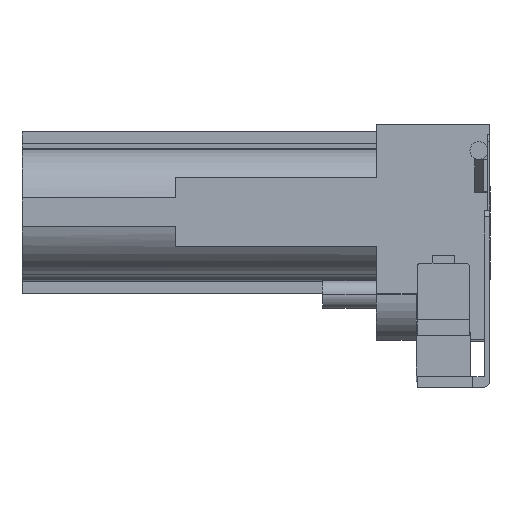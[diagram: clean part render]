
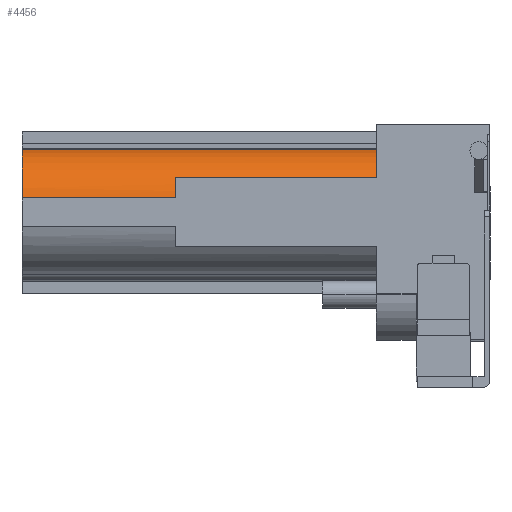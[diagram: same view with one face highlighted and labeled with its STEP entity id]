
A CAD part, front view. The second image highlights one B-rep face of the part: STEP entity #4456.
In plain terms, the highlighted cylindrical face has radius 23 mm (diameter 46 mm), a partial arc.
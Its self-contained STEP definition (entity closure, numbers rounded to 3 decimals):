
#126 = VECTOR ( 'NONE', #3342, 1000. ) ;
#1111 = EDGE_LOOP ( 'NONE', ( #4285, #4286, #4289, #4290, #4291, #4292 ) ) ;
#1923 = FACE_OUTER_BOUND ( 'NONE', #1111, .T. ) ;
#1924 = CYLINDRICAL_SURFACE ( 'NONE', #5188, 23. ) ;
#2114 = LINE ( 'NONE', #3331, #2116 ) ;
#2115 = CIRCLE ( 'NONE', #5227, 23. ) ;
#2116 = VECTOR ( 'NONE', #3332, 1000. ) ;
#2117 = LINE ( 'NONE', #3336, #2119 ) ;
#2118 = CIRCLE ( 'NONE', #5228, 23. ) ;
#2119 = VECTOR ( 'NONE', #3337, 1000. ) ;
#2120 = LINE ( 'NONE', #3341, #126 ) ;
#2121 = CIRCLE ( 'NONE', #5229, 23. ) ;
#2427 = CARTESIAN_POINT ( 'NONE',  ( -169.95, 293.765, 36.927 ) ) ;
#2440 = CARTESIAN_POINT ( 'NONE',  ( -114.25, 271.22, 19.3 ) ) ;
#2728 = CARTESIAN_POINT ( 'NONE',  ( -41.25, 274.361, 26.557 ) ) ;
#2736 = CARTESIAN_POINT ( 'NONE',  ( -41.25, 293.765, 36.927 ) ) ;
#2741 = CARTESIAN_POINT ( 'NONE',  ( -169.95, 271.22, 19.3 ) ) ;
#2757 = CARTESIAN_POINT ( 'NONE',  ( -114.25, 274.361, 26.557 ) ) ;
#3069 = CARTESIAN_POINT ( 'NONE',  ( -41.25, 293.584, 13.928 ) ) ;
#3070 = DIRECTION ( 'NONE',  ( -1., 0., 0. ) ) ;
#3071 = DIRECTION ( 'NONE',  ( 0., -1., 0. ) ) ;
#3328 = CARTESIAN_POINT ( 'NONE',  ( -114.25, 293.584, 13.928 ) ) ;
#3329 = DIRECTION ( 'NONE',  ( 1., 0., 0. ) ) ;
#3330 = DIRECTION ( 'NONE',  ( 0., -1., 0. ) ) ;
#3331 = CARTESIAN_POINT ( 'NONE',  ( -41.25, 271.22, 19.3 ) ) ;
#3332 = DIRECTION ( 'NONE',  ( 1., 0., 0. ) ) ;
#3333 = CARTESIAN_POINT ( 'NONE',  ( -169.95, 293.584, 13.928 ) ) ;
#3334 = DIRECTION ( 'NONE',  ( 1., 0., 0. ) ) ;
#3335 = DIRECTION ( 'NONE',  ( 0., -1., 0. ) ) ;
#3336 = CARTESIAN_POINT ( 'NONE',  ( -41.25, 293.765, 36.927 ) ) ;
#3337 = DIRECTION ( 'NONE',  ( -1., 0., 0. ) ) ;
#3338 = CARTESIAN_POINT ( 'NONE',  ( -41.25, 293.584, 13.928 ) ) ;
#3339 = DIRECTION ( 'NONE',  ( 1., 0., 0. ) ) ;
#3340 = DIRECTION ( 'NONE',  ( 0., -1., 0. ) ) ;
#3341 = CARTESIAN_POINT ( 'NONE',  ( -114.25, 274.361, 26.557 ) ) ;
#3342 = DIRECTION ( 'NONE',  ( 1., 0., 0. ) ) ;
#4285 = ORIENTED_EDGE ( 'NONE', *, *, #4566, .T. ) ;
#4286 = ORIENTED_EDGE ( 'NONE', *, *, #4565, .F. ) ;
#4289 = ORIENTED_EDGE ( 'NONE', *, *, #4564, .T. ) ;
#4290 = ORIENTED_EDGE ( 'NONE', *, *, #4563, .T. ) ;
#4291 = ORIENTED_EDGE ( 'NONE', *, *, #4562, .T. ) ;
#4292 = ORIENTED_EDGE ( 'NONE', *, *, #4561, .F. ) ;
#4456 = ADVANCED_FACE ( 'NONE', ( #1923 ), #1924, .T. ) ;
#4561 = EDGE_CURVE ( 'NONE', #6300, #5787, #2115, .T. ) ;
#4562 = EDGE_CURVE ( 'NONE', #6284, #5787, #2114, .T. ) ;
#4563 = EDGE_CURVE ( 'NONE', #5774, #6284, #2118, .T. ) ;
#4564 = EDGE_CURVE ( 'NONE', #6279, #5774, #2117, .T. ) ;
#4565 = EDGE_CURVE ( 'NONE', #6279, #6271, #2121, .T. ) ;
#4566 = EDGE_CURVE ( 'NONE', #6300, #6271, #2120, .T. ) ;
#5188 = AXIS2_PLACEMENT_3D ( 'NONE', #3069, #3070, #3071 ) ;
#5227 = AXIS2_PLACEMENT_3D ( 'NONE', #3328, #3329, #3330 ) ;
#5228 = AXIS2_PLACEMENT_3D ( 'NONE', #3333, #3334, #3335 ) ;
#5229 = AXIS2_PLACEMENT_3D ( 'NONE', #3338, #3339, #3340 ) ;
#5774 = VERTEX_POINT ( 'NONE', #2427 ) ;
#5787 = VERTEX_POINT ( 'NONE', #2440 ) ;
#6271 = VERTEX_POINT ( 'NONE', #2728 ) ;
#6279 = VERTEX_POINT ( 'NONE', #2736 ) ;
#6284 = VERTEX_POINT ( 'NONE', #2741 ) ;
#6300 = VERTEX_POINT ( 'NONE', #2757 ) ;
